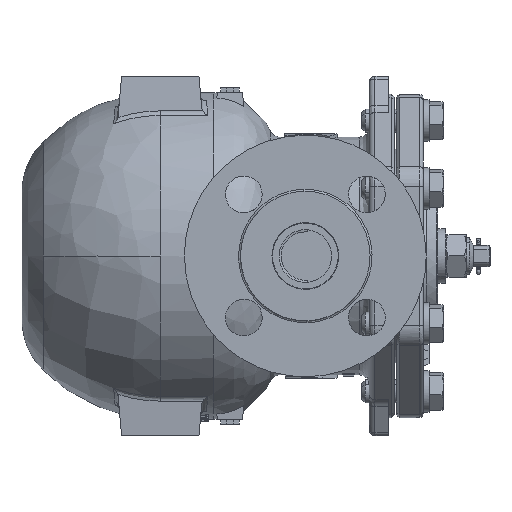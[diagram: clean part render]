
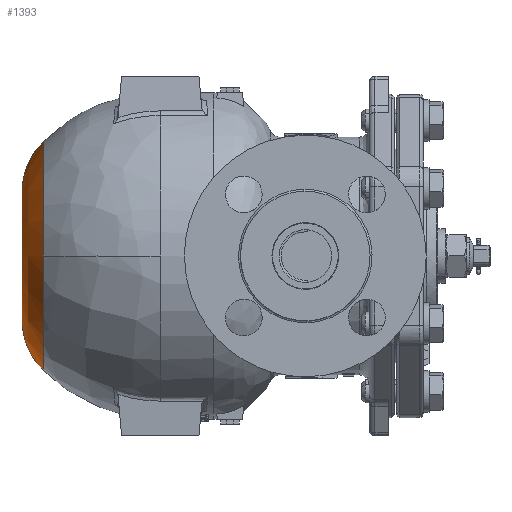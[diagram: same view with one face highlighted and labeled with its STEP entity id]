
A CAD part, left-side view. The second image highlights one B-rep face of the part: STEP entity #1393.
In plain terms, the highlighted free-form (B-spline) face has degree [2, 2] with [3, 5] control points.
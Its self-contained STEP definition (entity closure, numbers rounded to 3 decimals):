
#1393=ADVANCED_FACE('',(#9626),#9625,.T.);
#9625=( BOUNDED_SURFACE() B_SPLINE_SURFACE( 2,2,((#23277,#23278,#23279,#23280,#23281),(#23282,#23283,#23284,#23285,#23286),(#23287,#23288,#23289,#23290,#23291)), .UNSPECIFIED.,.F.,.F.,.F.) B_SPLINE_SURFACE_WITH_KNOTS((3,3),(3,2,3),(-1.571,-0.758),(0.,1.571,3.142), .UNSPECIFIED. ) GEOMETRIC_REPRESENTATION_ITEM() RATIONAL_B_SPLINE_SURFACE(((1.,0.707,1.,0.707,1.),(0.918,0.649,0.918,0.649,0.918),(1.,0.707,1.,0.707,1.))) REPRESENTATION_ITEM('') SURFACE() );
#9626=FACE_OUTER_BOUND('',#23292,.T.);
#23277=CARTESIAN_POINT('',(71.5,0.,-33.312));
#23278=CARTESIAN_POINT('',(71.5,33.312,-33.312));
#23279=CARTESIAN_POINT('',(71.5,33.312,0.));
#23280=CARTESIAN_POINT('',(71.5,33.312,33.312));
#23281=CARTESIAN_POINT('',(71.5,0.,33.312));
#23282=CARTESIAN_POINT('',(71.5,0.,-48.597));
#23283=CARTESIAN_POINT('',(71.5,48.597,-48.597));
#23284=CARTESIAN_POINT('',(71.5,48.597,0.));
#23285=CARTESIAN_POINT('',(71.5,48.597,48.597));
#23286=CARTESIAN_POINT('',(71.5,0.,48.597));
#23287=CARTESIAN_POINT('',(60.396,0.,-59.101));
#23288=CARTESIAN_POINT('',(60.396,59.101,-59.101));
#23289=CARTESIAN_POINT('',(60.396,59.101,0.));
#23290=CARTESIAN_POINT('',(60.396,59.101,59.101));
#23291=CARTESIAN_POINT('',(60.396,0.,59.101));
#23292=EDGE_LOOP('',(#28761,#28762,#28763,#28764,#28765,#28766,#28767));
#28761=ORIENTED_EDGE('',*,*,#31807,.T.);
#28762=ORIENTED_EDGE('',*,*,#31806,.T.);
#28763=ORIENTED_EDGE('',*,*,#32076,.T.);
#28764=ORIENTED_EDGE('',*,*,#32077,.T.);
#28765=ORIENTED_EDGE('',*,*,#32078,.T.);
#28766=ORIENTED_EDGE('',*,*,#32079,.T.);
#28767=ORIENTED_EDGE('',*,*,#32080,.F.);
#31806=EDGE_CURVE('',#48245,#48246,#48247,.T.);
#31807=EDGE_CURVE('',#48253,#48245,#48254,.T.);
#32076=EDGE_CURVE('',#48246,#50056,#50057,.T.);
#32077=EDGE_CURVE('',#50056,#50063,#50064,.T.);
#32078=EDGE_CURVE('',#50063,#50070,#50071,.T.);
#32079=EDGE_CURVE('',#50070,#50077,#50078,.T.);
#32080=EDGE_CURVE('',#48253,#50077,#50084,.T.);
#48245=VERTEX_POINT('',#67614);
#48246=VERTEX_POINT('',#67615);
#48247=(BOUNDED_CURVE() B_SPLINE_CURVE(2,(#67616,#67617,#67618,#67619,#67620),.UNSPECIFIED.,.F.,.F.) B_SPLINE_CURVE_WITH_KNOTS((3,2,3),(0.,0.5,1.),.UNSPECIFIED.) CURVE() GEOMETRIC_REPRESENTATION_ITEM() RATIONAL_B_SPLINE_CURVE((1.,0.924,1.,0.924,1.)) REPRESENTATION_ITEM('') );
#48253=VERTEX_POINT('',#67621);
#48254=(BOUNDED_CURVE() B_SPLINE_CURVE(3,(#67622,#67623,#67624,#67625,#67626,#67627,#67628,#67629,#67630,#67631,#67632,#67633),.UNSPECIFIED.,.F.,.F.) B_SPLINE_CURVE_WITH_KNOTS((4,1,1,1,1,1,1,1,1,4),(0.,8.585,13.49,16.761,22.075,29.433,34.748,40.471,47.421,52.326),.UNSPECIFIED.) CURVE() GEOMETRIC_REPRESENTATION_ITEM() RATIONAL_B_SPLINE_CURVE((1.,1.,1.,1.,1.,1.,1.,1.,1.,1.,1.,1.)) REPRESENTATION_ITEM('') );
#50056=VERTEX_POINT('',#69784);
#50057=(BOUNDED_CURVE() B_SPLINE_CURVE(2,(#69785,#69786,#69787),.UNSPECIFIED.,.F.,.F.) B_SPLINE_CURVE_WITH_KNOTS((3,3),(-1.571,-0.758),.UNSPECIFIED.) CURVE() GEOMETRIC_REPRESENTATION_ITEM() RATIONAL_B_SPLINE_CURVE((1.,0.918,1.)) REPRESENTATION_ITEM('') );
#50063=VERTEX_POINT('',#69788);
#50064=(BOUNDED_CURVE() B_SPLINE_CURVE(3,(#69789,#69790,#69791,#69792,#69793,#69794,#69795,#69796,#69797,#69798,#69799,#69800,#69801,#69802),.UNSPECIFIED.,.F.,.F.) B_SPLINE_CURVE_WITH_KNOTS((4,1,1,1,1,1,1,1,1,1,1,4),(0.,7.253,15.231,22.121,27.923,35.175,43.516,54.395,62.01,69.988,79.054,90.255),.UNSPECIFIED.) CURVE() GEOMETRIC_REPRESENTATION_ITEM() RATIONAL_B_SPLINE_CURVE((1.,1.,1.,1.,1.,1.,1.,1.,1.,1.,1.,1.,1.,1.)) REPRESENTATION_ITEM('') );
#50070=VERTEX_POINT('',#69803);
#50071=(BOUNDED_CURVE() B_SPLINE_CURVE(3,(#69804,#69805,#69806,#69807),.UNSPECIFIED.,.F.,.F.) B_SPLINE_CURVE_WITH_KNOTS((4,4),(90.255,92.834),.UNSPECIFIED.) CURVE() GEOMETRIC_REPRESENTATION_ITEM() RATIONAL_B_SPLINE_CURVE((1.,1.,1.,1.)) REPRESENTATION_ITEM('') );
#50077=VERTEX_POINT('',#69808);
#50078=(BOUNDED_CURVE() B_SPLINE_CURVE(3,(#69809,#69810,#69811,#69812,#69813,#69814,#69815,#69816,#69817,#69818,#69819,#69820,#69821,#69822),.UNSPECIFIED.,.F.,.F.) B_SPLINE_CURVE_WITH_KNOTS((4,1,1,1,1,1,1,1,1,1,1,4),(0.,6.89,17.044,24.659,36.989,43.516,51.131,60.197,67.45,73.614,80.867,92.834),.UNSPECIFIED.) CURVE() GEOMETRIC_REPRESENTATION_ITEM() RATIONAL_B_SPLINE_CURVE((1.,1.,1.,1.,1.,1.,1.,1.,1.,1.,1.,1.,1.,1.)) REPRESENTATION_ITEM('') );
#50084=(BOUNDED_CURVE() B_SPLINE_CURVE(2,(#69823,#69824,#69825),.UNSPECIFIED.,.F.,.F.) B_SPLINE_CURVE_WITH_KNOTS((3,3),(-1.571,-0.758),.UNSPECIFIED.) CURVE() GEOMETRIC_REPRESENTATION_ITEM() RATIONAL_B_SPLINE_CURVE((1.,0.918,1.)) REPRESENTATION_ITEM('') );
#67614=CARTESIAN_POINT('',(71.5,33.312,0.));
#67615=CARTESIAN_POINT('',(71.5,0.,-33.312));
#67616=CARTESIAN_POINT('',(71.5,33.312,0.));
#67617=CARTESIAN_POINT('',(71.5,33.312,-13.798));
#67618=CARTESIAN_POINT('',(71.5,23.555,-23.555));
#67619=CARTESIAN_POINT('',(71.5,13.798,-33.312));
#67620=CARTESIAN_POINT('',(71.5,0.,-33.312));
#67621=CARTESIAN_POINT('',(71.5,0.,33.312));
#67622=CARTESIAN_POINT('',(71.5,0.,33.312));
#67623=CARTESIAN_POINT('',(71.5,2.862,33.313));
#67624=CARTESIAN_POINT('',(71.5,7.358,32.729));
#67625=CARTESIAN_POINT('',(71.5,12.655,30.906));
#67626=CARTESIAN_POINT('',(71.5,16.701,28.931));
#67627=CARTESIAN_POINT('',(71.5,21.152,25.997));
#67628=CARTESIAN_POINT('',(71.5,25.47,21.784));
#67629=CARTESIAN_POINT('',(71.5,28.981,16.733));
#67630=CARTESIAN_POINT('',(71.5,31.554,11.293));
#67631=CARTESIAN_POINT('',(71.5,33.02,5.587));
#67632=CARTESIAN_POINT('',(71.5,33.312,1.635));
#67633=CARTESIAN_POINT('',(71.5,33.312,0.));
#69784=CARTESIAN_POINT('',(60.397,0.,-59.1));
#69785=CARTESIAN_POINT('',(71.5,0.,-33.312));
#69786=CARTESIAN_POINT('',(71.5,0.,-48.596));
#69787=CARTESIAN_POINT('',(60.397,0.,-59.1));
#69788=CARTESIAN_POINT('',(60.397,59.044,-2.578));
#69789=CARTESIAN_POINT('',(60.397,0.,-59.1));
#69790=CARTESIAN_POINT('',(60.397,2.418,-59.1));
#69791=CARTESIAN_POINT('',(60.397,7.494,-58.788));
#69792=CARTESIAN_POINT('',(60.397,14.751,-57.391));
#69793=CARTESIAN_POINT('',(60.397,21.311,-55.246));
#69794=CARTESIAN_POINT('',(60.397,27.38,-52.511));
#69795=CARTESIAN_POINT('',(60.397,33.531,-48.875));
#69796=CARTESIAN_POINT('',(60.397,40.488,-43.412));
#69797=CARTESIAN_POINT('',(60.397,46.562,-36.793));
#69798=CARTESIAN_POINT('',(60.397,51.451,-29.426));
#69799=CARTESIAN_POINT('',(60.397,55.065,-22.022));
#69800=CARTESIAN_POINT('',(60.397,57.944,-13.029));
#69801=CARTESIAN_POINT('',(60.397,58.881,-6.308));
#69802=CARTESIAN_POINT('',(60.397,59.044,-2.578));
#69803=CARTESIAN_POINT('',(60.397,59.1,0.));
#69804=CARTESIAN_POINT('',(60.397,59.044,-2.578));
#69805=CARTESIAN_POINT('',(60.397,59.081,-1.719));
#69806=CARTESIAN_POINT('',(60.397,59.1,-0.86));
#69807=CARTESIAN_POINT('',(60.397,59.1,0.));
#69808=CARTESIAN_POINT('',(60.397,0.,59.1));
#69809=CARTESIAN_POINT('',(60.397,59.1,0.));
#69810=CARTESIAN_POINT('',(60.397,59.1,2.297));
#69811=CARTESIAN_POINT('',(60.397,58.769,7.978));
#69812=CARTESIAN_POINT('',(60.397,57.109,16.059));
#69813=CARTESIAN_POINT('',(60.397,53.636,25.494));
#69814=CARTESIAN_POINT('',(60.397,49.215,33.186));
#69815=CARTESIAN_POINT('',(60.397,43.651,40.052));
#69816=CARTESIAN_POINT('',(60.397,38.086,45.449));
#69817=CARTESIAN_POINT('',(60.397,31.615,50.156));
#69818=CARTESIAN_POINT('',(60.397,24.993,53.695));
#69819=CARTESIAN_POINT('',(60.397,18.579,56.238));
#69820=CARTESIAN_POINT('',(60.397,10.395,58.449));
#69821=CARTESIAN_POINT('',(60.397,3.989,59.1));
#69822=CARTESIAN_POINT('',(60.397,0.,59.1));
#69823=CARTESIAN_POINT('',(71.5,0.,33.312));
#69824=CARTESIAN_POINT('',(71.5,0.,48.597));
#69825=CARTESIAN_POINT('',(60.396,0.,59.101));
